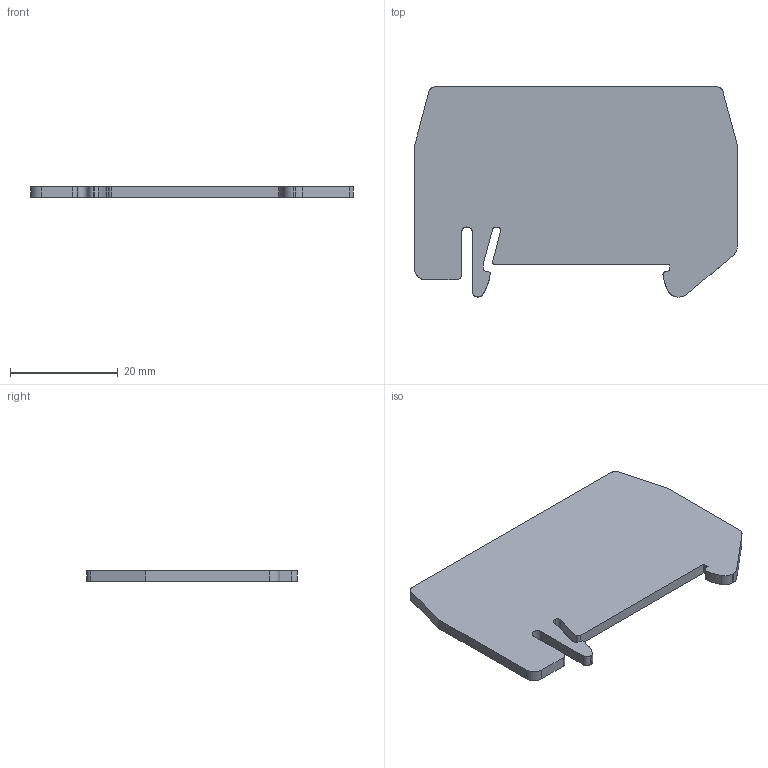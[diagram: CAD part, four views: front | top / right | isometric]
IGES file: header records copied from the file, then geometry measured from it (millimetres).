
Global section: file name: 3030721_atp_st4_select.igs; native system: OneSpace Designer 3D IGES; preprocessor: 12.01C  26-Mar-2004; date: 20041122.111024; units: millimetre
Bounding box: 59.9 x 39 x 2 mm (x, y, z)
Surface area: 4455.2 mm2 (no closed solid volume)
Topology: 0 solids, 0 shells, 41 faces, 346 edges, 346 vertices
Faces by surface type: bspline 41
